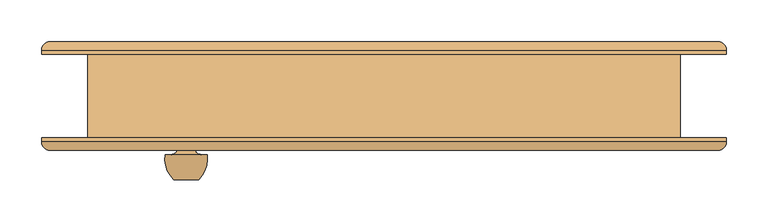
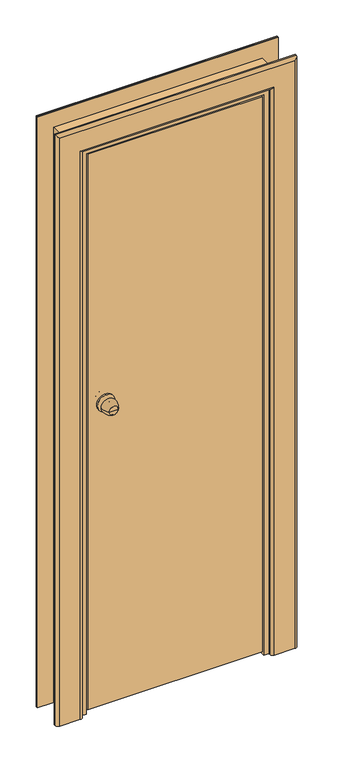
"""IFC4 building model written with IfcOpenShell, lengths in millimetres: door geometry, Внутренняя дверь 1-Навесная - 6629-88 : ДГ 21-7  ГОСТ 6629-88."""

from ifc_helpers import new_model, si_unit, point, frame, origin, place, context, project, spatial, polyline, circle_curve, ellipse_curve, trimmed, outline, extrude, faceted_brep, source, transform, mapped, element, save
from ifc_brep_helpers import plane_surface, cylinder_surface, revolved_surface, advanced_brep


def door_87bbec6c(model_context):
    return source(origin(), model_context, "Body", "SolidModel", [
        advanced_brep(
        [(-222.0, -100.0, 1100.0), (-252.0, -100.0, 1100.0), (-237.0, -100.0, 1100.0), (-212.0, -70.0, 1100.0), (-262.0, -70.0, 1100.0), (-219.0, -70.0, 1100.0), (-255.0, -70.0, 1100.0), (-227.0, -62.0, 1100.0), (-247.0, -62.0, 1100.0), (-227.0, -56.0, 1100.0), (-247.0, -56.0, 1100.0), (-267.0, -56.0, 1100.0), (-207.0, -56.0, 1100.0), (-267.0, -50.0, 1100.0), (-207.0, -50.0, 1100.0)],
        [
            (0, 1, circle_curve(frame((-237.0, -100.0, 1100.0), z_axis=(0.0, -1.0, 0.0), x_axis=(-1.0, 0.0, 0.0)), 15.0)),
            (1, 2),
            (2, 0),
            (1, 0, circle_curve(frame((-237.0, -100.0, 1100.0), z_axis=(0.0, -1.0, 0.0), x_axis=(-1.0, 0.0, 0.0)), 15.0)),
            (0, 3, circle_curve(frame((-246.6226265, -75.1257912, 1100.0), z_axis=(0.0, 0.0, 1.0), x_axis=(-1.0, 0.0, 0.0)), 35.0)),
            (3, 4, circle_curve(frame((-237.0, -70.0, 1100.0), z_axis=(0.0, -1.0, 0.0), x_axis=(-1.0, 0.0, 0.0)), 25.0)),
            (4, 1, circle_curve(frame((-227.3773735, -75.1257912, 1100.0), z_axis=(0.0, 0.0, 1.0), x_axis=(1.0, 0.0, 0.0)), 35.0)),
            (4, 3, circle_curve(frame((-237.0, -70.0, 1100.0), z_axis=(0.0, -1.0, 0.0), x_axis=(-1.0, 0.0, 0.0)), 25.0)),
            (3, 5),
            (5, 6, circle_curve(frame((-237.0, -70.0, 1100.0), z_axis=(0.0, -1.0, 0.0), x_axis=(-1.0, 0.0, 0.0)), 18.0)),
            (6, 4),
            (6, 5, circle_curve(frame((-237.0, -70.0, 1100.0), z_axis=(0.0, -1.0, 0.0), x_axis=(-1.0, 0.0, 0.0)), 18.0)),
            (5, 7, circle_curve(frame((-219.0, -62.0, 1100.0), z_axis=(0.0, 0.0, -1.0), x_axis=(-1.0, 0.0, 0.0)), 8.0)),
            (7, 8, circle_curve(frame((-237.0, -62.0, 1100.0), z_axis=(0.0, -1.0, 0.0), x_axis=(-1.0, 0.0, 0.0)), 10.0)),
            (8, 6, circle_curve(frame((-255.0, -62.0, 1100.0), z_axis=(0.0, 0.0, -1.0), x_axis=(1.0, 0.0, 0.0)), 8.0)),
            (8, 7, circle_curve(frame((-237.0, -62.0, 1100.0), z_axis=(0.0, -1.0, 0.0), x_axis=(-1.0, 0.0, 0.0)), 10.0)),
            (7, 9),
            (9, 10, circle_curve(frame((-237.0, -56.0, 1100.0), z_axis=(0.0, -1.0, 0.0), x_axis=(-1.0, 0.0, 0.0)), 10.0)),
            (10, 8),
            (10, 9, circle_curve(frame((-237.0, -56.0, 1100.0), z_axis=(0.0, -1.0, 0.0), x_axis=(-1.0, 0.0, 0.0)), 10.0)),
            (11, 12, circle_curve(frame((-237.0, -56.0, 1100.0), z_axis=(0.0, -1.0, 0.0), x_axis=(1.0, 0.0, 0.0)), 30.0)),
            (12, 11, circle_curve(frame((-237.0, -56.0, 1100.0), z_axis=(0.0, -1.0, 0.0), x_axis=(1.0, 0.0, 0.0)), 30.0)),
            (13, 14, circle_curve(frame((-237.0, -50.0, 1100.0), z_axis=(0.0, 1.0, 0.0), x_axis=(1.0, 0.0, 0.0)), 30.0)),
            (14, 13, circle_curve(frame((-237.0, -50.0, 1100.0), z_axis=(0.0, 1.0, 0.0), x_axis=(1.0, 0.0, 0.0)), 30.0)),
            (11, 13),
            (14, 12),
        ],
        [
            plane_surface(frame((-237.0, -100.0, 1100.0), z_axis=(0.0, -1.0, 0.0), x_axis=(-1.0, 0.0, 0.0))),
            revolved_surface(trimmed(ellipse_curve(frame((-227.3773735, -75.1257912, 1100.0), z_axis=(0.0, 0.0, -1.0), x_axis=(1.0, 0.0, 0.0)), 35.0, 35.0), [point((-252.0, -100.0, 1100.0))], [point((-262.0, -70.0, 1100.0))], True, "CARTESIAN"), (-237.0, -130.0, 1100.0), (0.0, 1.0, 0.0)),
            plane_surface(frame((-237.0, -70.0, 1100.0), z_axis=(0.0, 1.0, 0.0), x_axis=(-1.0, 0.0, 0.0))),
            revolved_surface(trimmed(ellipse_curve(frame((-255.0, -62.0, 1100.0), z_axis=(0.0, 0.0, 1.0), x_axis=(1.0, 0.0, 0.0)), 8.0, 8.0), [point((-255.0, -70.0, 1100.0))], [point((-247.0, -62.0, 1100.0))], True, "CARTESIAN"), (-237.0, -130.0, 1100.0), (0.0, 1.0, 0.0)),
            cylinder_surface(frame((-237.0, -130.0, 1100.0), z_axis=(0.0, 1.0, 0.0), x_axis=(-1.0, 0.0, 0.0)), 10.0),
            plane_surface(frame((-207.0, -56.0, 1100.0), z_axis=(0.0, -1.0, 0.0), x_axis=(0.0, 0.0, 1.0))),
            plane_surface(frame((-207.0, -50.0, 1100.0), z_axis=(0.0, 1.0, 0.0), x_axis=(0.0, 0.0, -1.0))),
            cylinder_surface(frame((-237.0, -50.0, 1100.0), z_axis=(0.0, -1.0, 0.0), x_axis=(1.0, 0.0, 0.0)), 30.0),
        ],
        [
            (0, [[1, 2, 3]]),
            (0, [[-2, 4, -3]]),
            (1, [[-1, 5, 6, 7]]),
            (1, [[-4, -7, 8, -5]]),
            (2, [[-6, 9, 10, 11]]),
            (2, [[-8, -11, 12, -9]]),
            (3, [[-10, 13, 14, 15]]),
            (3, [[-12, -15, 16, -13]]),
            (4, [[-14, 17, 18, 19]]),
            (4, [[-16, -19, 20, -17]]),
            (5, [[21, 22], [-18, -20]]),
            (6, [[23, 24]]),
            (7, [[-21, 25, -24, 26]]),
            (7, [[-22, -26, -23, -25]]),
        ],
    ),
        advanced_brep(
        [(-252.0, 37.0, 1100.0), (-222.0, 37.0, 1100.0), (-237.0, 37.0, 1100.0), (-262.0, 7.0, 1100.0), (-212.0, 7.0, 1100.0), (-255.0, 7.0, 1100.0), (-219.0, 7.0, 1100.0), (-247.0, -1.0, 1100.0), (-227.0, -1.0, 1100.0), (-247.0, -7.0, 1100.0), (-227.0, -7.0, 1100.0), (-207.0, -7.0, 1100.0), (-267.0, -7.0, 1100.0), (-207.0, -13.0, 1100.0), (-267.0, -13.0, 1100.0)],
        [
            (0, 1, circle_curve(frame((-237.0, 37.0, 1100.0), z_axis=(0.0, 1.0, 0.0), x_axis=(1.0, 0.0, 0.0)), 15.0)),
            (1, 2),
            (2, 0),
            (1, 0, circle_curve(frame((-237.0, 37.0, 1100.0), z_axis=(0.0, 1.0, 0.0), x_axis=(1.0, 0.0, 0.0)), 15.0)),
            (0, 3, circle_curve(frame((-227.3773735, 12.1257912, 1100.0), z_axis=(0.0, 0.0, 1.0), x_axis=(1.0, 0.0, 0.0)), 35.0)),
            (3, 4, circle_curve(frame((-237.0, 7.0, 1100.0), z_axis=(0.0, 1.0, 0.0), x_axis=(1.0, 0.0, 0.0)), 25.0)),
            (4, 1, circle_curve(frame((-246.6226265, 12.1257912, 1100.0), z_axis=(0.0, 0.0, 1.0), x_axis=(-1.0, 0.0, 0.0)), 35.0)),
            (4, 3, circle_curve(frame((-237.0, 7.0, 1100.0), z_axis=(0.0, 1.0, 0.0), x_axis=(1.0, 0.0, 0.0)), 25.0)),
            (3, 5),
            (5, 6, circle_curve(frame((-237.0, 7.0, 1100.0), z_axis=(0.0, 1.0, 0.0), x_axis=(1.0, 0.0, 0.0)), 18.0)),
            (6, 4),
            (6, 5, circle_curve(frame((-237.0, 7.0, 1100.0), z_axis=(0.0, 1.0, 0.0), x_axis=(1.0, 0.0, 0.0)), 18.0)),
            (5, 7, circle_curve(frame((-255.0, -1.0, 1100.0), z_axis=(0.0, 0.0, -1.0), x_axis=(1.0, 0.0, 0.0)), 8.0)),
            (7, 8, circle_curve(frame((-237.0, -1.0, 1100.0), z_axis=(0.0, 1.0, 0.0), x_axis=(1.0, 0.0, 0.0)), 10.0)),
            (8, 6, circle_curve(frame((-219.0, -1.0, 1100.0), z_axis=(0.0, 0.0, -1.0), x_axis=(-1.0, 0.0, 0.0)), 8.0)),
            (8, 7, circle_curve(frame((-237.0, -1.0, 1100.0), z_axis=(0.0, 1.0, 0.0), x_axis=(1.0, 0.0, 0.0)), 10.0)),
            (7, 9),
            (9, 10, circle_curve(frame((-237.0, -7.0, 1100.0), z_axis=(0.0, 1.0, 0.0), x_axis=(1.0, 0.0, 0.0)), 10.0)),
            (10, 8),
            (10, 9, circle_curve(frame((-237.0, -7.0, 1100.0), z_axis=(0.0, 1.0, 0.0), x_axis=(1.0, 0.0, 0.0)), 10.0)),
            (11, 12, circle_curve(frame((-237.0, -7.0, 1100.0), z_axis=(0.0, 1.0, 0.0), x_axis=(-1.0, 0.0, 0.0)), 30.0)),
            (12, 11, circle_curve(frame((-237.0, -7.0, 1100.0), z_axis=(0.0, 1.0, 0.0), x_axis=(-1.0, 0.0, 0.0)), 30.0)),
            (13, 14, circle_curve(frame((-237.0, -13.0, 1100.0), z_axis=(0.0, -1.0, 0.0), x_axis=(-1.0, 0.0, 0.0)), 30.0)),
            (14, 13, circle_curve(frame((-237.0, -13.0, 1100.0), z_axis=(0.0, -1.0, 0.0), x_axis=(-1.0, 0.0, 0.0)), 30.0)),
            (11, 13),
            (14, 12),
        ],
        [
            plane_surface(frame((-237.0, 37.0, 1100.0), z_axis=(0.0, 1.0, 0.0), x_axis=(1.0, 0.0, 0.0))),
            revolved_surface(trimmed(ellipse_curve(frame((-246.6226265, 12.1257912, 1100.0), z_axis=(0.0, 0.0, -1.0), x_axis=(-1.0, 0.0, 0.0)), 35.0, 35.0), [point((-222.0, 37.0, 1100.0))], [point((-212.0, 7.0, 1100.0))], True, "CARTESIAN"), (-237.0, 67.0, 1100.0), (0.0, -1.0, 0.0)),
            plane_surface(frame((-237.0, 7.0, 1100.0), z_axis=(0.0, -1.0, 0.0), x_axis=(1.0, 0.0, 0.0))),
            revolved_surface(trimmed(ellipse_curve(frame((-219.0, -1.0, 1100.0), z_axis=(0.0, 0.0, 1.0), x_axis=(-1.0, 0.0, 0.0)), 8.0, 8.0), [point((-219.0, 7.0, 1100.0))], [point((-227.0, -1.0, 1100.0))], True, "CARTESIAN"), (-237.0, 67.0, 1100.0), (0.0, -1.0, 0.0)),
            cylinder_surface(frame((-237.0, 67.0, 1100.0), z_axis=(0.0, -1.0, 0.0), x_axis=(1.0, 0.0, 0.0)), 10.0),
            plane_surface(frame((-267.0, -7.0, 1100.0), z_axis=(0.0, 1.0, 0.0), x_axis=(0.0, 0.0, 1.0))),
            plane_surface(frame((-267.0, -13.0, 1100.0), z_axis=(0.0, -1.0, 0.0), x_axis=(0.0, 0.0, -1.0))),
            cylinder_surface(frame((-237.0, -13.0, 1100.0), z_axis=(0.0, 1.0, 0.0), x_axis=(-1.0, 0.0, 0.0)), 30.0),
        ],
        [
            (0, [[1, 2, 3]]),
            (0, [[-2, 4, -3]]),
            (1, [[-1, 5, 6, 7]]),
            (1, [[-4, -7, 8, -5]]),
            (2, [[-6, 9, 10, 11]]),
            (2, [[-8, -11, 12, -9]]),
            (3, [[-10, 13, 14, 15]]),
            (3, [[-12, -15, 16, -13]]),
            (4, [[-14, 17, 18, 19]]),
            (4, [[-16, -19, 20, -17]]),
            (5, [[21, 22], [-18, -20]]),
            (6, [[23, 24]]),
            (7, [[-21, 25, -24, 26]]),
            (7, [[-22, -26, -23, -25]]),
        ],
    ),
        extrude(outline(polyline([(0.0, 320.0), (0.0, 335.0), (2050.0, 335.0), (2050.0, -335.0), (0.0, -335.0), (0.0, -320.0), (2035.0, -320.0), (2035.0, 320.0), (0.0, 320.0)])), frame((0.0, 24.0, 0.0), z_axis=(0.0, 1.0, 0.0), x_axis=(0.0, 0.0, 1.0)), (0.0, 0.0, 1.0), 26.0),
        advanced_brep(
        [(-410.0, -50.0, 0.0), (-320.0, -50.0, 0.0), (-320.0, -55.0, 0.0), (-330.0, -65.0, 0.0), (-400.0, -65.0, 0.0), (-410.0, -55.0, 0.0), (-410.0, -50.0, 2125.0), (410.0, -50.0, 2125.0), (410.0, -50.0, 0.0), (320.0, -50.0, 0.0), (320.0, -50.0, 2035.0), (-320.0, -50.0, 2035.0), (-320.0, -55.0, 2035.0), (-330.0, -65.0, 2045.0), (330.0, -65.0, 2045.0), (330.0, -65.0, 0.0), (400.0, -65.0, 0.0), (400.0, -65.0, 2115.0), (-400.0, -65.0, 2115.0), (-410.0, -55.0, 2125.0), (410.0, -55.0, 2125.0), (410.0, -55.0, 0.0), (320.0, -55.0, 0.0), (320.0, -55.0, 2035.0)],
        [
            (0, 1),
            (1, 2),
            (2, 3, circle_curve(frame((-330.0, -55.0, 0.0), z_axis=(0.0, 0.0, -1.0), x_axis=(-1.0, 0.0, 0.0)), 10.0)),
            (3, 4),
            (4, 5, circle_curve(frame((-400.0, -55.0, 0.0), z_axis=(0.0, 0.0, -1.0), x_axis=(-1.0, 0.0, 0.0)), 10.0)),
            (5, 0),
            (0, 6),
            (6, 7),
            (7, 8),
            (8, 9),
            (9, 10),
            (10, 11),
            (11, 1),
            (11, 12),
            (12, 2),
            (12, 13, ellipse_curve(frame((-330.0, -55.0, 2045.0), z_axis=(-0.7071067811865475, 0.0, -0.7071067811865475), x_axis=(0.7071067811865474, 0.0, -0.7071067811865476)), 14.1421356, 10.0)),
            (13, 3),
            (13, 14),
            (14, 15),
            (15, 16),
            (16, 17),
            (17, 18),
            (18, 4),
            (18, 19, ellipse_curve(frame((-400.0, -55.0, 2115.0), z_axis=(-0.7071067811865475, 0.0, -0.7071067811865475), x_axis=(0.7071067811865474, 0.0, -0.7071067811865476)), 14.1421356, 10.0)),
            (19, 5),
            (19, 6),
            (7, 20),
            (20, 21),
            (21, 8),
            (21, 16, circle_curve(frame((400.0, -55.0, 0.0), z_axis=(0.0, 0.0, -1.0), x_axis=(1.0, 0.0, 0.0)), 10.0)),
            (15, 22, circle_curve(frame((330.0, -55.0, 0.0), z_axis=(0.0, 0.0, -1.0), x_axis=(1.0, 0.0, 0.0)), 10.0)),
            (22, 9),
            (23, 10),
            (22, 23),
            (14, 23, ellipse_curve(frame((330.0, -55.0, 2045.0), z_axis=(0.7071067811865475, 0.0, -0.7071067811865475), x_axis=(0.7071067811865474, 0.0, 0.7071067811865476)), 14.1421356, 10.0)),
            (20, 17, ellipse_curve(frame((400.0, -55.0, 2115.0), z_axis=(0.7071067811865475, 0.0, -0.7071067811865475), x_axis=(0.7071067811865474, 0.0, 0.7071067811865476)), 14.1421356, 10.0)),
            (23, 12),
            (20, 19),
        ],
        [
            plane_surface(frame((-355.0, -50.0, 0.0), z_axis=(0.0, 0.0, -1.0), x_axis=(0.0, 1.0, 0.0))),
            plane_surface(frame((-410.0, -50.0, 0.0), z_axis=(0.0, 1.0, 0.0), x_axis=(0.0, 0.0, 1.0))),
            plane_surface(frame((-320.0, -50.0, 0.0), z_axis=(1.0, 0.0, 0.0), x_axis=(0.0, 0.0, 1.0))),
            cylinder_surface(frame((-330.0, -55.0, 0.0), z_axis=(0.0, 0.0, -1.0), x_axis=(-1.0, 0.0, 0.0)), 10.0),
            plane_surface(frame((-330.0, -65.0, 0.0), z_axis=(0.0, -1.0, 0.0), x_axis=(0.0, 0.0, 1.0))),
            cylinder_surface(frame((-400.0, -55.0, 0.0), z_axis=(0.0, 0.0, -1.0), x_axis=(-1.0, 0.0, 0.0)), 10.0),
            plane_surface(frame((-410.0, -55.0, 0.0), z_axis=(-1.0, 0.0, 0.0), x_axis=(0.0, 0.0, 1.0))),
            plane_surface(frame((410.0, -55.0, 2125.0), z_axis=(1.0, 0.0, 0.0), x_axis=(0.0, 0.0, -1.0))),
            plane_surface(frame((355.0, -50.0, 0.0), z_axis=(0.0, 0.0, -1.0), x_axis=(0.0, 1.0, 0.0))),
            plane_surface(frame((320.0, -50.0, 2035.0), z_axis=(-1.0, 0.0, 0.0), x_axis=(0.0, 0.0, -1.0))),
            cylinder_surface(frame((330.0, -55.0, 2070.0), z_axis=(0.0, 0.0, 1.0), x_axis=(1.0, 0.0, 0.0)), 10.0),
            cylinder_surface(frame((400.0, -55.0, 2070.0), z_axis=(0.0, 0.0, 1.0), x_axis=(1.0, 0.0, 0.0)), 10.0),
            plane_surface(frame((-320.0, -50.0, 2035.0), z_axis=(0.0, 0.0, -1.0), x_axis=(1.0, 0.0, 0.0))),
            cylinder_surface(frame((-355.0, -55.0, 2045.0), z_axis=(-1.0, 0.0, 0.0), x_axis=(0.0, 0.0, 1.0)), 10.0),
            cylinder_surface(frame((-355.0, -55.0, 2115.0), z_axis=(-1.0, 0.0, 0.0), x_axis=(0.0, 0.0, 1.0)), 10.0),
            plane_surface(frame((-410.0, -55.0, 2125.0), z_axis=(0.0, 0.0, 1.0), x_axis=(1.0, 0.0, 0.0))),
        ],
        [
            (0, [[1, 2, 3, 4, 5, 6]]),
            (1, [[-1, 7, 8, 9, 10, 11, 12, 13]]),
            (2, [[-2, -13, 14, 15]]),
            (3, [[-3, -15, 16, 17]]),
            (4, [[-4, -17, 18, 19, 20, 21, 22, 23]]),
            (5, [[-5, -23, 24, 25]]),
            (6, [[-6, -25, 26, -7]]),
            (7, [[27, 28, 29, -9]]),
            (8, [[-29, 30, -20, 31, 32, -10]]),
            (9, [[33, -11, -32, 34]]),
            (10, [[35, -34, -31, -19]]),
            (11, [[36, -21, -30, -28]]),
            (12, [[-14, -12, -33, 37]]),
            (13, [[-16, -37, -35, -18]]),
            (14, [[-24, -22, -36, 38]]),
            (15, [[-26, -38, -27, -8]]),
        ],
    ),
        advanced_brep(
        [(410.0, 50.0, 0.0), (320.0, 50.0, 0.0), (320.0, 55.0, 0.0), (330.0, 65.0, 0.0), (400.0, 65.0, 0.0), (410.0, 55.0, 0.0), (410.0, 50.0, 2125.0), (-410.0, 50.0, 2125.0), (-410.0, 50.0, 0.0), (-320.0, 50.0, 0.0), (-320.0, 50.0, 2035.0), (320.0, 50.0, 2035.0), (320.0, 55.0, 2035.0), (330.0, 65.0, 2045.0), (-330.0, 65.0, 2045.0), (-330.0, 65.0, 0.0), (-400.0, 65.0, 0.0), (-400.0, 65.0, 2115.0), (400.0, 65.0, 2115.0), (410.0, 55.0, 2125.0), (-410.0, 55.0, 2125.0), (-410.0, 55.0, 0.0), (-320.0, 55.0, 0.0), (-320.0, 55.0, 2035.0)],
        [
            (0, 1),
            (1, 2),
            (2, 3, circle_curve(frame((330.0, 55.0, 0.0), z_axis=(0.0, 0.0, -1.0), x_axis=(1.0, 0.0, 0.0)), 10.0)),
            (3, 4),
            (4, 5, circle_curve(frame((400.0, 55.0, 0.0), z_axis=(0.0, 0.0, -1.0), x_axis=(1.0, 0.0, 0.0)), 10.0)),
            (5, 0),
            (0, 6),
            (6, 7),
            (7, 8),
            (8, 9),
            (9, 10),
            (10, 11),
            (11, 1),
            (11, 12),
            (12, 2),
            (12, 13, ellipse_curve(frame((330.0, 55.0, 2045.0), z_axis=(0.7071067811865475, 0.0, -0.7071067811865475), x_axis=(-0.7071067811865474, 0.0, -0.7071067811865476)), 14.1421356, 10.0)),
            (13, 3),
            (13, 14),
            (14, 15),
            (15, 16),
            (16, 17),
            (17, 18),
            (18, 4),
            (18, 19, ellipse_curve(frame((400.0, 55.0, 2115.0), z_axis=(0.7071067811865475, 0.0, -0.7071067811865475), x_axis=(-0.7071067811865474, 0.0, -0.7071067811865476)), 14.1421356, 10.0)),
            (19, 5),
            (19, 6),
            (7, 20),
            (20, 21),
            (21, 8),
            (21, 16, circle_curve(frame((-400.0, 55.0, 0.0), z_axis=(0.0, 0.0, -1.0), x_axis=(-1.0, 0.0, 0.0)), 10.0)),
            (15, 22, circle_curve(frame((-330.0, 55.0, 0.0), z_axis=(0.0, 0.0, -1.0), x_axis=(-1.0, 0.0, 0.0)), 10.0)),
            (22, 9),
            (23, 10),
            (22, 23),
            (14, 23, ellipse_curve(frame((-330.0, 55.0, 2045.0), z_axis=(-0.7071067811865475, 0.0, -0.7071067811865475), x_axis=(-0.7071067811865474, 0.0, 0.7071067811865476)), 14.1421356, 10.0)),
            (20, 17, ellipse_curve(frame((-400.0, 55.0, 2115.0), z_axis=(-0.7071067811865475, 0.0, -0.7071067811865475), x_axis=(-0.7071067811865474, 0.0, 0.7071067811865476)), 14.1421356, 10.0)),
            (23, 12),
            (20, 19),
        ],
        [
            plane_surface(frame((355.0, 50.0, 0.0), z_axis=(0.0, 0.0, -1.0), x_axis=(0.0, -1.0, 0.0))),
            plane_surface(frame((410.0, 50.0, 0.0), z_axis=(0.0, -1.0, 0.0), x_axis=(0.0, 0.0, 1.0))),
            plane_surface(frame((320.0, 50.0, 0.0), z_axis=(-1.0, 0.0, 0.0), x_axis=(0.0, 0.0, 1.0))),
            cylinder_surface(frame((330.0, 55.0, 0.0), z_axis=(0.0, 0.0, -1.0), x_axis=(1.0, 0.0, 0.0)), 10.0),
            plane_surface(frame((330.0, 65.0, 0.0), z_axis=(0.0, 1.0, 0.0), x_axis=(0.0, 0.0, 1.0))),
            cylinder_surface(frame((400.0, 55.0, 0.0), z_axis=(0.0, 0.0, -1.0), x_axis=(1.0, 0.0, 0.0)), 10.0),
            plane_surface(frame((410.0, 55.0, 0.0), z_axis=(1.0, 0.0, 0.0), x_axis=(0.0, 0.0, 1.0))),
            plane_surface(frame((-410.0, 55.0, 2125.0), z_axis=(-1.0, 0.0, 0.0), x_axis=(0.0, 0.0, -1.0))),
            plane_surface(frame((-355.0, 50.0, 0.0), z_axis=(0.0, 0.0, -1.0), x_axis=(0.0, -1.0, 0.0))),
            plane_surface(frame((-320.0, 50.0, 2035.0), z_axis=(1.0, 0.0, 0.0), x_axis=(0.0, 0.0, -1.0))),
            cylinder_surface(frame((-330.0, 55.0, 2070.0), z_axis=(0.0, 0.0, 1.0), x_axis=(-1.0, 0.0, 0.0)), 10.0),
            cylinder_surface(frame((-400.0, 55.0, 2070.0), z_axis=(0.0, 0.0, 1.0), x_axis=(-1.0, 0.0, 0.0)), 10.0),
            plane_surface(frame((320.0, 50.0, 2035.0), z_axis=(0.0, 0.0, -1.0), x_axis=(-1.0, 0.0, 0.0))),
            cylinder_surface(frame((355.0, 55.0, 2045.0), z_axis=(1.0, 0.0, 0.0), x_axis=(0.0, 0.0, 1.0)), 10.0),
            cylinder_surface(frame((355.0, 55.0, 2115.0), z_axis=(1.0, 0.0, 0.0), x_axis=(0.0, 0.0, 1.0)), 10.0),
            plane_surface(frame((410.0, 55.0, 2125.0), z_axis=(0.0, 0.0, 1.0), x_axis=(-1.0, 0.0, 0.0))),
        ],
        [
            (0, [[1, 2, 3, 4, 5, 6]]),
            (1, [[-1, 7, 8, 9, 10, 11, 12, 13]]),
            (2, [[-2, -13, 14, 15]]),
            (3, [[-3, -15, 16, 17]]),
            (4, [[-4, -17, 18, 19, 20, 21, 22, 23]]),
            (5, [[-5, -23, 24, 25]]),
            (6, [[-6, -25, 26, -7]]),
            (7, [[27, 28, 29, -9]]),
            (8, [[-29, 30, -20, 31, 32, -10]]),
            (9, [[33, -11, -32, 34]]),
            (10, [[35, -34, -31, -19]]),
            (11, [[36, -21, -30, -28]]),
            (12, [[-14, -12, -33, 37]]),
            (13, [[-16, -37, -35, -18]]),
            (14, [[-24, -22, -36, 38]]),
            (15, [[-26, -38, -27, -8]]),
        ],
    ),
        faceted_brep([(290.0, 24.0, 0.0), (335.0, 24.0, 0.0), (335.0, -50.0, 0.0), (302.0, -50.0, 0.0), (302.0, -8.0, 0.0), (290.0, -8.0, 0.0), (290.0, 24.0, 2005.0), (-290.0, 24.0, 2005.0), (-290.0, 24.0, 0.0), (-335.0, 24.0, 0.0), (-335.0, 24.0, 2050.0), (335.0, 24.0, 2050.0), (335.0, -50.0, 2050.0), (-335.0, -50.0, 2050.0), (-335.0, -50.0, 0.0), (-302.0, -50.0, 0.0), (-302.0, -50.0, 2017.0), (302.0, -50.0, 2017.0), (302.0, -8.0, 2017.0), (-302.0, -8.0, 2017.0), (-302.0, -8.0, 0.0), (-290.0, -8.0, 0.0), (-290.0, -8.0, 2005.0), (290.0, -8.0, 2005.0)], [[[0, 1, 2, 3, 4, 5]], [[1, 0, 6, 7, 8, 9, 10, 11]], [[2, 1, 11, 12]], [[3, 2, 12, 13, 14, 15, 16, 17]], [[4, 3, 17, 18]], [[5, 4, 18, 19, 20, 21, 22, 23]], [[0, 5, 23, 6]], [[7, 22, 21, 8]], [[8, 21, 20, 15, 14, 9]], [[13, 10, 9, 14]], [[19, 16, 15, 20]], [[12, 11, 10, 13]], [[18, 17, 16, 19]], [[6, 23, 22, 7]]]),
        extrude(outline(polyline([(0.0, 335.0), (0.0, 355.0), (2070.0, 355.0), (2070.0, -355.0), (0.0, -355.0), (0.0, -335.0), (2050.0, -335.0), (2050.0, 335.0), (0.0, 335.0)])), frame((0.0, -50.0, 0.0), z_axis=(0.0, 1.0, 0.0), x_axis=(0.0, 0.0, 1.0)), (0.0, 0.0, 1.0), 100.0),
        extrude(outline(polyline([(297.0, -13.0), (297.0, -50.0), (-297.0, -50.0), (-297.0, -13.0), (297.0, -13.0)])), frame((0.0, 0.0, 15.0), z_axis=(0.0, 0.0, 1.0), x_axis=(1.0, 0.0, 0.0)), (0.0, 0.0, 1.0), 1997.0),
    ])


if __name__ == "__main__":
    model = new_model("IFC4")
    model_context = context("Model", 3, world=origin())
    ifc_project = project(units=[si_unit("LENGTHUNIT", "METRE", prefix="MILLI")], contexts=[model_context])
    site = spatial("IfcSite", under=ifc_project)
    building = spatial("IfcBuilding", under=site)
    placement = place(None, origin())
    door_shape = door_87bbec6c(model_context)
    element("IfcDoor", 1, ObjectType="Внутренняя дверь 1-Навесная - 6629-88 : ДГ 21-7  ГОСТ 6629-88", at=placement, inside=building, context=model_context, shape_type="MappedRepresentation", body=[
        mapped(door_shape, transform((0.0, 0.0, 0.0), x_axis=(1.0, 0.0, 0.0), y_axis=(0.0, 1.0, 0.0), z_axis=(0.0, 0.0, 1.0))),
    ])
    save(model, "model.ifc")
